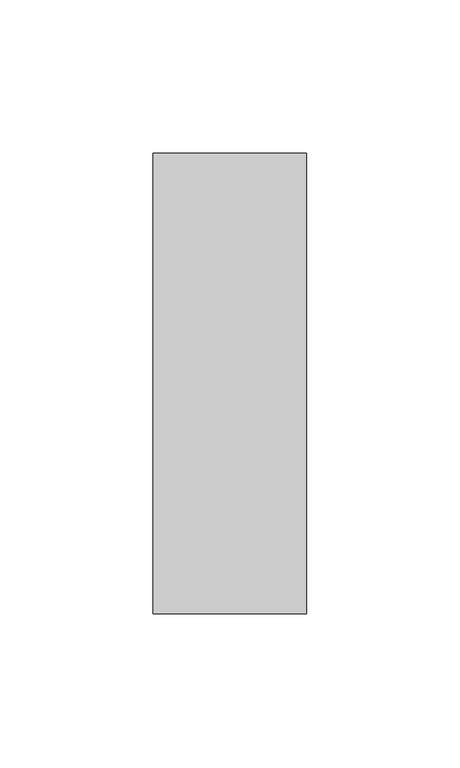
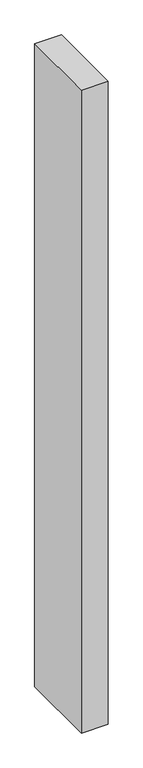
"""IFC4 building model written with IfcOpenShell, lengths in millimetres: member geometry, Прямоугольный импост : 50 x 150 мм."""

from ifc_helpers import new_model, si_unit, frame, origin, place, context, project, spatial, polyline, outline, extrude, source, transform, mapped, element, save


def member_be8fb76f(model_context):
    return source(origin(), model_context, "Body", "SweptSolid", [
        extrude(outline(polyline([(25.0, 75.0), (25.0, -75.0), (-25.0, -75.0), (-25.0, 75.0), (25.0, 75.0)])), frame((0.0, 0.0, -1262.5119153), z_axis=(0.0, 0.0, 1.0), x_axis=(1.0, 0.0, 0.0)), (0.0, 0.0, 1.0), 1262.5119153),
    ])


if __name__ == "__main__":
    model = new_model("IFC4")
    model_context = context("Model", 3, world=origin())
    ifc_project = project(units=[si_unit("LENGTHUNIT", "METRE", prefix="MILLI")], contexts=[model_context])
    site = spatial("IfcSite", under=ifc_project)
    building = spatial("IfcBuilding", under=site)
    placement = place(None, origin())
    member_shape = member_be8fb76f(model_context)
    element("IfcMember", 1, ObjectType="Прямоугольный импост : 50 x 150 мм", at=placement, inside=building, context=model_context, shape_type="MappedRepresentation", body=[
        mapped(member_shape, transform((0.0, 0.0, 0.0), x_axis=(1.0, 0.0, 0.0), y_axis=(0.0, 1.0, 0.0), z_axis=(0.0, 0.0, 1.0))),
    ])
    save(model, "model.ifc")
